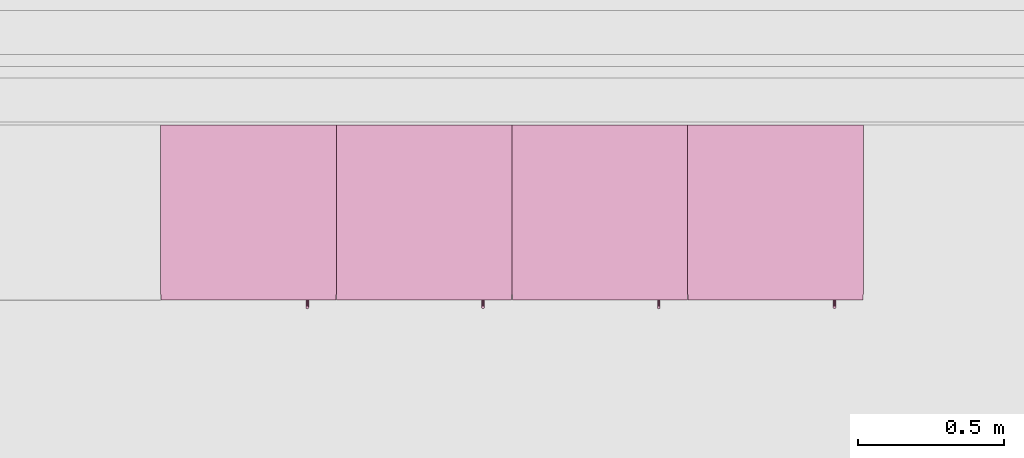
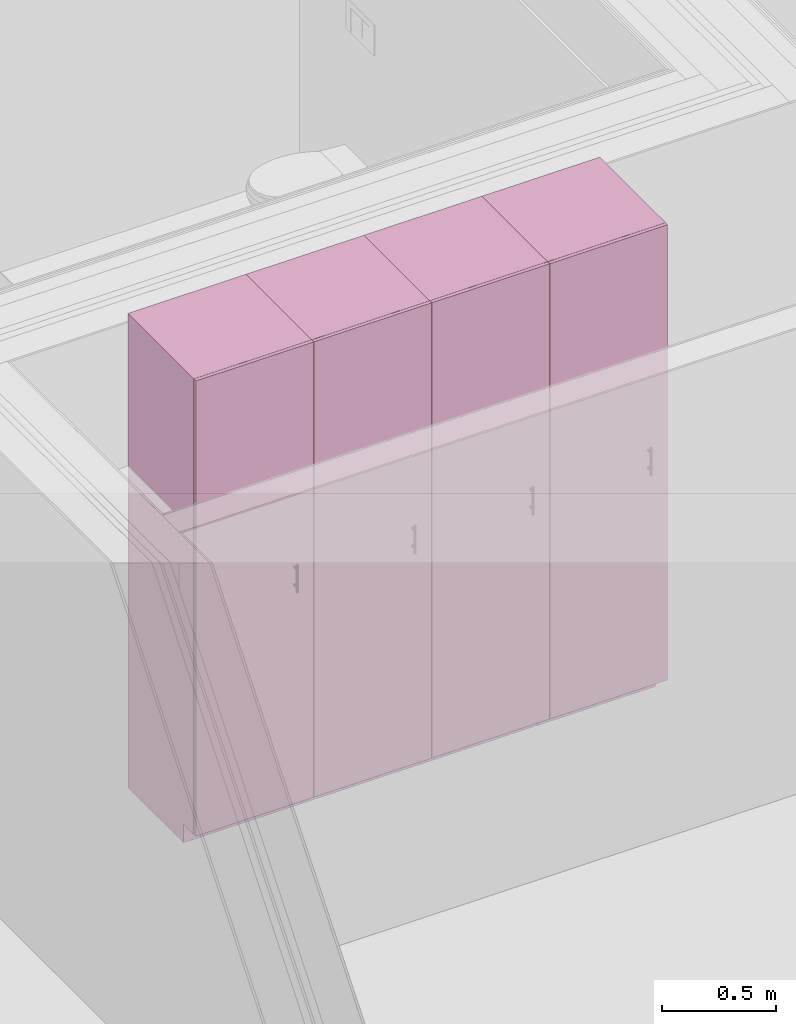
# One storey, part 26 of 34: 4 furniture elements.
"""IFC4 building model written with IfcOpenShell, lengths in millimetres."""

from ifc_helpers import new_model, entity, si_unit, converted_unit, derived_unit, direction, frame, origin_with_axes, place, context, subcontext, project, spatial, polygons, source, transform, mapped, type_object, element, save


model = new_model("IFC4")

# Units and contexts
model_context = context("Model", 3, precision=0.01, world=origin_with_axes(), true_north=direction((0.0, 1.0)))
body_context = subcontext(model_context, "Body", "Model", "MODEL_VIEW")
ifc_project = project(units=[si_unit("LENGTHUNIT", "METRE", prefix="MILLI"), si_unit("AREAUNIT", "SQUARE_METRE"), si_unit("VOLUMEUNIT", "CUBIC_METRE"), converted_unit("PLANEANGLEUNIT", "DEGREE", entity("IfcPlaneAngleMeasure", 0.0174532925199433), si_unit("PLANEANGLEUNIT", "RADIAN"), dimensions=[0, 0, 0, 0, 0, 0, 0]), converted_unit("TIMEUNIT", "Year", entity("IfcTimeMeasure", 31557600.0), si_unit("TIMEUNIT", "SECOND"), dimensions=[0, 0, 1, 0, 0, 0, 0]), si_unit("MASSUNIT", "GRAM", prefix="KILO"), si_unit("THERMODYNAMICTEMPERATUREUNIT", "DEGREE_CELSIUS"), si_unit("LUMINOUSINTENSITYUNIT", "LUMEN"), si_unit("ENERGYUNIT", "JOULE", prefix="MEGA"), derived_unit("THERMALCONDUCTANCEUNIT", [(si_unit("POWERUNIT", "WATT"), 1), (si_unit("LENGTHUNIT", "METRE"), -1), (si_unit("THERMODYNAMICTEMPERATUREUNIT", "KELVIN"), -1)]), derived_unit("SPECIFICHEATCAPACITYUNIT", [(si_unit("ENERGYUNIT", "JOULE"), 1), (si_unit("MASSUNIT", "GRAM", prefix="KILO"), -1), (si_unit("THERMODYNAMICTEMPERATUREUNIT", "KELVIN"), -1)]), derived_unit("MASSDENSITYUNIT", [(si_unit("MASSUNIT", "GRAM", prefix="KILO"), 1), (si_unit("VOLUMEUNIT", "CUBIC_METRE"), -1)])], contexts=[model_context])

# Site, building, storey
site_placement = place(None, origin_with_axes())
site = spatial("IfcSite", under=ifc_project, at=site_placement, Name="Gelände", CompositionType="ELEMENT")
building_placement = place(site_placement, origin_with_axes())
building = spatial("IfcBuilding", under=site, at=building_placement, Name="Gebäude", CompositionType="ELEMENT")
storey_placement = place(building_placement, frame((0.0, 0.0, 5799.999999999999), z_axis=(0.0, 0.0, 1.0), x_axis=(1.0, 0.0, 0.0)))
storey = spatial("IfcBuildingStorey", under=building, at=storey_placement, Name="2.OG", CompositionType="ELEMENT", Elevation=5800.0)

# Furniture
furniture_type = type_object("IfcFurnitureType", Name="Stehender Schrank Block 27", AssemblyPlace="NOTDEFINED", PredefinedType="NOTDEFINED")
shared_shape = source(origin_with_axes(), body_context, "Body", "Tessellation", [
    polygons([(501.8682408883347, -597.9999999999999, 1377.799012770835), (502.7101007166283, -597.9999999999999, 1377.573437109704), (503.4999999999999, -597.9999999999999, 1377.205101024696), (504.2139380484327, -597.9999999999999, 1376.705196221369), (504.8302222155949, -597.9999999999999, 1376.088912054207), (505.3301270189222, -597.9999999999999, 1375.374974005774), (505.6984631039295, -597.9999999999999, 1374.585074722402), (505.924038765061, -597.9999999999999, 1373.743214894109), (506.0, -597.9999999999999, 1372.874974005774), (505.924038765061, -597.9999999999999, 1372.00673311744), (505.6984631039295, -597.9999999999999, 1371.164873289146), (505.3301270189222, -597.9999999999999, 1370.374974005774), (504.8302222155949, -597.9999999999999, 1369.661035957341), (504.2139380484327, -597.9999999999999, 1369.044751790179), (503.4999999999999, -597.9999999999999, 1368.544846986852), (502.7101007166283, -597.9999999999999, 1368.176510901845), (501.8682408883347, -597.9999999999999, 1367.950935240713), (501.0, -597.9999999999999, 1367.874974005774), (500.1317591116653, -597.9999999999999, 1367.950935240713), (499.2898992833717, -597.9999999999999, 1368.176510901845), (498.5, -597.9999999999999, 1368.544846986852), (497.7860619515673, -597.9999999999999, 1369.044751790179), (497.1697777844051, -597.9999999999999, 1369.661035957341), (496.6698729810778, -597.9999999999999, 1370.374974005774), (496.3015368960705, -597.9999999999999, 1371.164873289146), (496.075961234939, -597.9999999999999, 1372.00673311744), (496.0, -597.9999999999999, 1372.874974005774), (496.075961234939, -597.9999999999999, 1373.743214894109), (496.3015368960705, -597.9999999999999, 1374.585074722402), (496.6698729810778, -597.9999999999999, 1375.374974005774), (497.1697777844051, -597.9999999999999, 1376.088912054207), (497.7860619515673, -597.9999999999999, 1376.705196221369), (498.5, -597.9999999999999, 1377.205101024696), (499.2898992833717, -597.9999999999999, 1377.573437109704), (500.1317591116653, -597.9999999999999, 1377.799012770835), (501.0, -597.9999999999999, 1377.874974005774), (501.8682408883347, -622.9999999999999, 1377.799012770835), (502.7101007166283, -622.9999999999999, 1377.573437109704), (503.4999999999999, -622.9999999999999, 1377.205101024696), (504.2139380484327, -622.9999999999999, 1376.705196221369), (504.8302222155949, -622.9999999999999, 1376.088912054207), (505.3301270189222, -622.9999999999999, 1375.374974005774), (505.6984631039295, -622.9999999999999, 1374.585074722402), (505.924038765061, -622.9999999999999, 1373.743214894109), (506.0, -622.9999999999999, 1372.874974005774), (505.924038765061, -622.9999999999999, 1372.00673311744), (505.6984631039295, -622.9999999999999, 1371.164873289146), (505.3301270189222, -622.9999999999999, 1370.374974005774), (504.8302222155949, -622.9999999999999, 1369.661035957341), (504.2139380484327, -622.9999999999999, 1369.044751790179), (503.4999999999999, -622.9999999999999, 1368.544846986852), (502.7101007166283, -622.9999999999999, 1368.176510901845), (501.8682408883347, -622.9999999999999, 1367.950935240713), (501.0, -622.9999999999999, 1367.874974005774), (500.1317591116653, -622.9999999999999, 1367.950935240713), (499.2898992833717, -622.9999999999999, 1368.176510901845), (498.5, -622.9999999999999, 1368.544846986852), (497.7860619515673, -622.9999999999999, 1369.044751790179), (497.1697777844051, -622.9999999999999, 1369.661035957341), (496.6698729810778, -622.9999999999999, 1370.374974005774), (496.3015368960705, -622.9999999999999, 1371.164873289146), (496.075961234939, -622.9999999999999, 1372.00673311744), (496.0, -622.9999999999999, 1372.874974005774), (496.075961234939, -622.9999999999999, 1373.743214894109), (496.3015368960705, -622.9999999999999, 1374.585074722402), (496.6698729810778, -622.9999999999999, 1375.374974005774), (497.1697777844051, -622.9999999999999, 1376.088912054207), (497.7860619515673, -622.9999999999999, 1376.705196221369), (498.5, -622.9999999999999, 1377.205101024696), (499.2898992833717, -622.9999999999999, 1377.573437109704), (500.1317591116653, -622.9999999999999, 1377.799012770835), (501.0, -622.9999999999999, 1377.874974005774)], [[[1, 2, 3, 4, 5, 6, 7, 8, 9, 10, 11, 12, 13, 14, 15, 16, 17, 18, 19, 20, 21, 22, 23, 24, 25, 26, 27, 28, 29, 30, 31, 32, 33, 34, 35, 36]], [[2, 1, 37, 38]], [[3, 2, 38, 39]], [[4, 3, 39, 40]], [[5, 4, 40, 41]], [[6, 5, 41, 42]], [[7, 6, 42, 43]], [[8, 7, 43, 44]], [[9, 8, 44, 45]], [[10, 9, 45, 46]], [[11, 10, 46, 47]], [[12, 11, 47, 48]], [[13, 12, 48, 49]], [[14, 13, 49, 50]], [[15, 14, 50, 51]], [[16, 15, 51, 52]], [[17, 16, 52, 53]], [[18, 17, 53, 54]], [[19, 18, 54, 55]], [[20, 19, 55, 56]], [[21, 20, 56, 57]], [[22, 21, 57, 58]], [[23, 22, 58, 59]], [[24, 23, 59, 60]], [[25, 24, 60, 61]], [[26, 25, 61, 62]], [[27, 26, 62, 63]], [[28, 27, 63, 64]], [[29, 28, 64, 65]], [[30, 29, 65, 66]], [[31, 30, 66, 67]], [[32, 31, 67, 68]], [[33, 32, 68, 69]], [[34, 33, 69, 70]], [[35, 34, 70, 71]], [[36, 35, 71, 72]], [[1, 36, 72, 37]], [[37, 72, 71, 70, 69, 68, 67, 66, 65, 64, 63, 62, 61, 60, 59, 58, 57, 56, 55, 54, 53, 52, 51, 50, 49, 48, 47, 46, 45, 44, 43, 42, 41, 40, 39, 38]]], closed=True),
    polygons([(501.8682408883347, -597.9999999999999, 1274.200935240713), (501.0, -597.9999999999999, 1274.124974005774), (500.1317591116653, -597.9999999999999, 1274.200935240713), (499.2898992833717, -597.9999999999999, 1274.426510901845), (498.5, -597.9999999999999, 1274.794846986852), (497.7860619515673, -597.9999999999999, 1275.294751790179), (497.1697777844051, -597.9999999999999, 1275.911035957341), (496.6698729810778, -597.9999999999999, 1276.624974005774), (496.3015368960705, -597.9999999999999, 1277.414873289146), (496.075961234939, -597.9999999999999, 1278.25673311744), (496.0, -597.9999999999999, 1279.124974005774), (496.075961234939, -597.9999999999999, 1279.993214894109), (496.3015368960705, -597.9999999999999, 1280.835074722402), (496.6698729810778, -597.9999999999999, 1281.624974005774), (497.1697777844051, -597.9999999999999, 1282.338912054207), (497.7860619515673, -597.9999999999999, 1282.955196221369), (498.5, -597.9999999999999, 1283.455101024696), (499.2898992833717, -597.9999999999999, 1283.823437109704), (500.1317591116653, -597.9999999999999, 1284.049012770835), (501.0, -597.9999999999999, 1284.124974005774), (501.8682408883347, -597.9999999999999, 1284.049012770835), (502.7101007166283, -597.9999999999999, 1283.823437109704), (503.4999999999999, -597.9999999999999, 1283.455101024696), (504.2139380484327, -597.9999999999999, 1282.955196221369), (504.8302222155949, -597.9999999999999, 1282.338912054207), (505.3301270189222, -597.9999999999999, 1281.624974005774), (505.6984631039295, -597.9999999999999, 1280.835074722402), (505.924038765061, -597.9999999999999, 1279.993214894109), (506.0, -597.9999999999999, 1279.124974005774), (505.924038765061, -597.9999999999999, 1278.25673311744), (505.6984631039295, -597.9999999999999, 1277.414873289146), (505.3301270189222, -597.9999999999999, 1276.624974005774), (504.8302222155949, -597.9999999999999, 1275.911035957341), (504.2139380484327, -597.9999999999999, 1275.294751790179), (503.4999999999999, -597.9999999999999, 1274.794846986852), (502.7101007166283, -597.9999999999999, 1274.426510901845), (501.8682408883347, -622.9999999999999, 1274.200935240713), (501.0, -622.9999999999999, 1274.124974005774), (500.1317591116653, -622.9999999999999, 1274.200935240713), (499.2898992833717, -622.9999999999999, 1274.426510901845), (498.5, -622.9999999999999, 1274.794846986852), (497.7860619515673, -622.9999999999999, 1275.294751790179), (497.1697777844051, -622.9999999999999, 1275.911035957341), (496.6698729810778, -622.9999999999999, 1276.624974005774), (496.3015368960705, -622.9999999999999, 1277.414873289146), (496.075961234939, -622.9999999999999, 1278.25673311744), (496.0, -622.9999999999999, 1279.124974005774), (496.075961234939, -622.9999999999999, 1279.993214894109), (496.3015368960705, -622.9999999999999, 1280.835074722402), (496.6698729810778, -622.9999999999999, 1281.624974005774), (497.1697777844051, -622.9999999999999, 1282.338912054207), (497.7860619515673, -622.9999999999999, 1282.955196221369), (498.5, -622.9999999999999, 1283.455101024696), (499.2898992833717, -622.9999999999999, 1283.823437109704), (500.1317591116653, -622.9999999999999, 1284.049012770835), (501.0, -622.9999999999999, 1284.124974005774), (501.8682408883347, -622.9999999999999, 1284.049012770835), (502.7101007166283, -622.9999999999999, 1283.823437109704), (503.4999999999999, -622.9999999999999, 1283.455101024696), (504.2139380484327, -622.9999999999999, 1282.955196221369), (504.8302222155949, -622.9999999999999, 1282.338912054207), (505.3301270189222, -622.9999999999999, 1281.624974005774), (505.6984631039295, -622.9999999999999, 1280.835074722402), (505.924038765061, -622.9999999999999, 1279.993214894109), (506.0, -622.9999999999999, 1279.124974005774), (505.924038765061, -622.9999999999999, 1278.25673311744), (505.6984631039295, -622.9999999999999, 1277.414873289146), (505.3301270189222, -622.9999999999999, 1276.624974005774), (504.8302222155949, -622.9999999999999, 1275.911035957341), (504.2139380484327, -622.9999999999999, 1275.294751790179), (503.4999999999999, -622.9999999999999, 1274.794846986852), (502.7101007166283, -622.9999999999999, 1274.426510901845)], [[[1, 2, 3, 4, 5, 6, 7, 8, 9, 10, 11, 12, 13, 14, 15, 16, 17, 18, 19, 20, 21, 22, 23, 24, 25, 26, 27, 28, 29, 30, 31, 32, 33, 34, 35, 36]], [[1, 37, 38, 2]], [[2, 38, 39, 3]], [[3, 39, 40, 4]], [[4, 40, 41, 5]], [[5, 41, 42, 6]], [[6, 42, 43, 7]], [[7, 43, 44, 8]], [[8, 44, 45, 9]], [[9, 45, 46, 10]], [[10, 46, 47, 11]], [[11, 47, 48, 12]], [[12, 48, 49, 13]], [[13, 49, 50, 14]], [[14, 50, 51, 15]], [[15, 51, 52, 16]], [[16, 52, 53, 17]], [[17, 53, 54, 18]], [[18, 54, 55, 19]], [[19, 55, 56, 20]], [[20, 56, 57, 21]], [[21, 57, 58, 22]], [[22, 58, 59, 23]], [[23, 59, 60, 24]], [[24, 60, 61, 25]], [[25, 61, 62, 26]], [[26, 62, 63, 27]], [[27, 63, 64, 28]], [[28, 64, 65, 29]], [[29, 65, 66, 30]], [[30, 66, 67, 31]], [[31, 67, 68, 32]], [[32, 68, 69, 33]], [[33, 69, 70, 34]], [[34, 70, 71, 35]], [[35, 71, 72, 36]], [[36, 72, 37, 1]], [[37, 72, 71, 70, 69, 68, 67, 66, 65, 64, 63, 62, 61, 60, 59, 58, 57, 56, 55, 54, 53, 52, 51, 50, 49, 48, 47, 46, 45, 44, 43, 42, 41, 40, 39, 38]]], closed=True),
    polygons([(501.8682408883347, -618.0759612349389, 1250.999974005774), (502.7101007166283, -618.3015368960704, 1250.999974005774), (503.4999999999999, -618.6698729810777, 1250.999974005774), (504.2139380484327, -619.1697777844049, 1250.999974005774), (504.8302222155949, -619.7860619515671, 1250.999974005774), (505.3301270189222, -620.4999999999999, 1250.999974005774), (505.6984631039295, -621.2898992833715, 1250.999974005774), (505.924038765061, -622.1317591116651, 1250.999974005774), (506.0, -622.9999999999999, 1250.999974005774), (505.924038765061, -623.8682408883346, 1250.999974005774), (505.6984631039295, -624.7101007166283, 1250.999974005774), (505.3301270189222, -625.4999999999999, 1250.999974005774), (504.8302222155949, -626.2139380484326, 1250.999974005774), (504.2139380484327, -626.8302222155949, 1250.999974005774), (503.4999999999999, -627.3301270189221, 1250.999974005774), (502.7101007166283, -627.6984631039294, 1250.999974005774), (501.8682408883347, -627.924038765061, 1250.999974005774), (501.0, -627.9999999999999, 1250.999974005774), (500.1317591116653, -627.924038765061, 1250.999974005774), (499.2898992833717, -627.6984631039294, 1250.999974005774), (498.5, -627.3301270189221, 1250.999974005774), (497.7860619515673, -626.8302222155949, 1250.999974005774), (497.1697777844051, -626.2139380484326, 1250.999974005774), (496.6698729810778, -625.4999999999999, 1250.999974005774), (496.3015368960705, -624.7101007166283, 1250.999974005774), (496.075961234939, -623.8682408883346, 1250.999974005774), (496.0, -622.9999999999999, 1250.999974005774), (496.075961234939, -622.1317591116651, 1250.999974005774), (496.3015368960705, -621.2898992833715, 1250.999974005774), (496.6698729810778, -620.4999999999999, 1250.999974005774), (497.1697777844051, -619.7860619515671, 1250.999974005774), (497.7860619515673, -619.1697777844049, 1250.999974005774), (498.5, -618.6698729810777, 1250.999974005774), (499.2898992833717, -618.3015368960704, 1250.999974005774), (500.1317591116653, -618.0759612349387, 1250.999974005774), (501.0, -617.9999999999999, 1250.999974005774), (501.8682408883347, -618.0759612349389, 1400.999974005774), (502.7101007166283, -618.3015368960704, 1400.999974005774), (503.5000000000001, -618.6698729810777, 1400.999974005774), (504.2139380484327, -619.1697777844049, 1400.999974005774), (504.8302222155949, -619.7860619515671, 1400.999974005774), (505.3301270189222, -620.4999999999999, 1400.999974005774), (505.6984631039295, -621.2898992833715, 1400.999974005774), (505.9240387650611, -622.1317591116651, 1400.999974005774), (506.0, -622.9999999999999, 1400.999974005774), (505.9240387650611, -623.8682408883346, 1400.999974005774), (505.6984631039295, -624.7101007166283, 1400.999974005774), (505.3301270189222, -625.4999999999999, 1400.999974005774), (504.8302222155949, -626.2139380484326, 1400.999974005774), (504.2139380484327, -626.8302222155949, 1400.999974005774), (503.5000000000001, -627.3301270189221, 1400.999974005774), (502.7101007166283, -627.6984631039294, 1400.999974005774), (501.8682408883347, -627.924038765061, 1400.999974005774), (501.0, -627.9999999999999, 1400.999974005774), (500.1317591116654, -627.924038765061, 1400.999974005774), (499.2898992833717, -627.6984631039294, 1400.999974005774), (498.5, -627.3301270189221, 1400.999974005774), (497.7860619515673, -626.8302222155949, 1400.999974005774), (497.1697777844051, -626.2139380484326, 1400.999974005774), (496.6698729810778, -625.4999999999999, 1400.999974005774), (496.3015368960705, -624.7101007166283, 1400.999974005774), (496.075961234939, -623.8682408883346, 1400.999974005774), (496.0, -622.9999999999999, 1400.999974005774), (496.075961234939, -622.1317591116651, 1400.999974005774), (496.3015368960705, -621.2898992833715, 1400.999974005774), (496.6698729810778, -620.4999999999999, 1400.999974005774), (497.1697777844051, -619.7860619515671, 1400.999974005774), (497.7860619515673, -619.1697777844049, 1400.999974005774), (498.5, -618.6698729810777, 1400.999974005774), (499.2898992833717, -618.3015368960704, 1400.999974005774), (500.1317591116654, -618.0759612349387, 1400.999974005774), (501.0, -617.9999999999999, 1400.999974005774)], [[[1, 2, 3, 4, 5, 6, 7, 8, 9, 10, 11, 12, 13, 14, 15, 16, 17, 18, 19, 20, 21, 22, 23, 24, 25, 26, 27, 28, 29, 30, 31, 32, 33, 34, 35, 36]], [[2, 1, 37, 38]], [[3, 2, 38, 39]], [[4, 3, 39, 40]], [[5, 4, 40, 41]], [[6, 5, 41, 42]], [[7, 6, 42, 43]], [[8, 7, 43, 44]], [[9, 8, 44, 45]], [[10, 9, 45, 46]], [[11, 10, 46, 47]], [[12, 11, 47, 48]], [[13, 12, 48, 49]], [[14, 13, 49, 50]], [[15, 14, 50, 51]], [[16, 15, 51, 52]], [[17, 16, 52, 53]], [[18, 17, 53, 54]], [[19, 18, 54, 55]], [[20, 19, 55, 56]], [[21, 20, 56, 57]], [[22, 21, 57, 58]], [[23, 22, 58, 59]], [[24, 23, 59, 60]], [[25, 24, 60, 61]], [[26, 25, 61, 62]], [[27, 26, 62, 63]], [[28, 27, 63, 64]], [[29, 28, 64, 65]], [[30, 29, 65, 66]], [[31, 30, 66, 67]], [[32, 31, 67, 68]], [[33, 32, 68, 69]], [[34, 33, 69, 70]], [[35, 34, 70, 71]], [[36, 35, 71, 72]], [[1, 36, 72, 37]], [[37, 72, 71, 70, 69, 68, 67, 66, 65, 64, 63, 62, 61, 60, 59, 58, 57, 56, 55, 54, 53, 52, 51, 50, 49, 48, 47, 46, 45, 44, 43, 42, 41, 40, 39, 38]]], closed=True),
    polygons([(1.0, -580.0, 101.0), (599.0, -580.0, 101.0), (599.0, -598.0, 101.0), (1.0, -598.0, 101.0), (1.0, -579.9999999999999, 2548.999948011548), (599.0, -579.9999999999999, 2548.999948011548), (599.0, -597.9999999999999, 2548.999948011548), (1.0, -597.9999999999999, 2548.999948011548)], [[[1, 2, 3, 4]], [[1, 5, 6, 2]], [[2, 6, 7, 3]], [[4, 3, 7, 8]], [[5, 1, 4, 8]], [[6, 5, 8, 7]]], closed=True),
    polygons([(18.0, -580.0, 100.0), (582.0, -580.0, 100.0), (582.0, -580.0, 118.0), (18.0, -580.0, 118.0), (18.0, 0.0, 100.0), (582.0, 0.0, 100.0), (582.0, 0.0, 118.0), (18.0, 0.0, 118.0)], [[[1, 2, 3, 4]], [[1, 5, 6, 2]], [[2, 6, 7, 3]], [[4, 3, 7, 8]], [[5, 1, 4, 8]], [[6, 5, 8, 7]]], closed=True),
    polygons([(18.0, -580.0, 2531.999948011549), (582.0, -580.0, 2531.999948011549), (582.0, -580.0, 2549.999948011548), (18.0, -580.0, 2549.999948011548), (18.0, 0.0, 2531.999948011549), (582.0, 0.0, 2531.999948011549), (582.0, 0.0, 2549.999948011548), (18.0, 0.0, 2549.999948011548)], [[[1, 2, 3, 4]], [[1, 5, 6, 2]], [[2, 6, 7, 3]], [[4, 3, 7, 8]], [[5, 1, 4, 8]], [[6, 5, 8, 7]]], closed=True),
    polygons([(0.0, 0.0, 100.0), (0.0, -580.0, 100.0), (0.0, -580.0, 2549.999948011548), (0.0, 0.0, 2549.999948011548), (18.0, 0.0, 100.0), (18.0, -580.0, 100.0), (18.0, -580.0, 2549.999948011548), (18.0, 0.0, 2549.999948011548)], [[[1, 2, 3, 4]], [[1, 5, 6, 2]], [[2, 6, 7, 3]], [[4, 3, 7, 8]], [[5, 1, 4, 8]], [[6, 5, 8, 7]]], closed=True),
    polygons([(600.0, -580.0, 100.0), (600.0, 0.0, 100.0), (600.0, 0.0, 2549.999948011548), (600.0, -580.0, 2549.999948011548), (582.0, -580.0, 100.0), (582.0, 0.0, 100.0), (582.0, 0.0, 2549.999948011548), (582.0, -580.0, 2549.999948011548)], [[[1, 2, 3, 4]], [[1, 5, 6, 2]], [[2, 6, 7, 3]], [[4, 3, 7, 8]], [[5, 1, 4, 8]], [[6, 5, 8, 7]]], closed=True),
    polygons([(582.0, -9.0, 118.0), (18.00000000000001, -9.0, 118.0), (18.00000000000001, -9.0, 2531.999948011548), (582.0, -9.0, 2531.999948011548), (582.0, -18.0, 118.0), (18.00000000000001, -18.0, 118.0), (18.00000000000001, -18.0, 2531.999948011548), (582.0, -18.0, 2531.999948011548)], [[[1, 2, 3, 4]], [[1, 5, 6, 2]], [[2, 6, 7, 3]], [[4, 3, 7, 8]], [[5, 1, 4, 8]], [[6, 5, 8, 7]]], closed=True),
    polygons([(0.0, -490.0, 0.0), (600.0, -490.0, 0.0), (600.0, -490.0, 100.0), (0.0, -490.0, 100.0), (0.0, 0.0, 0.0), (600.0, 0.0, 0.0), (600.0, 0.0, 100.0), (0.0, 0.0, 100.0)], [[[1, 2, 3, 4]], [[1, 5, 6, 2]], [[2, 6, 7, 3]], [[4, 3, 7, 8]], [[5, 1, 4, 8]], [[6, 5, 8, 7]]], closed=True),
])
for number, where, z_axis, x_axis in (
    (1, (2302.995800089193, 27974.37338563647, 150.0000000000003), (0.0, 0.0, 1.0), (1.0, 0.0, 0.0)),
    (2, (2902.995800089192, 27974.37338563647, 150.0000000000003), (0.0, 0.0, 1.0), (1.0, 0.0, 0.0)),
    (3, (1102.995800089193, 27974.37338563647, 150.0000000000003), (0.0, 0.0, 1.0), (1.0, 0.0, 0.0)),
    (4, (1702.995800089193, 27974.37338563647, 150.0000000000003), (0.0, 0.0, 1.0), (1.0, 0.0, 0.0)),
):
    element("IfcFurniture", number, at=place(storey_placement, frame(where, z_axis=z_axis, x_axis=x_axis)), inside=storey, type_object=furniture_type, Name="Möbel-021", PredefinedType="NOTDEFINED", context=body_context, shape_type="MappedRepresentation", body=[
        mapped(shared_shape, transform((0.0, 0.0, 0.0))),
    ])

save(model, "model.ifc")
